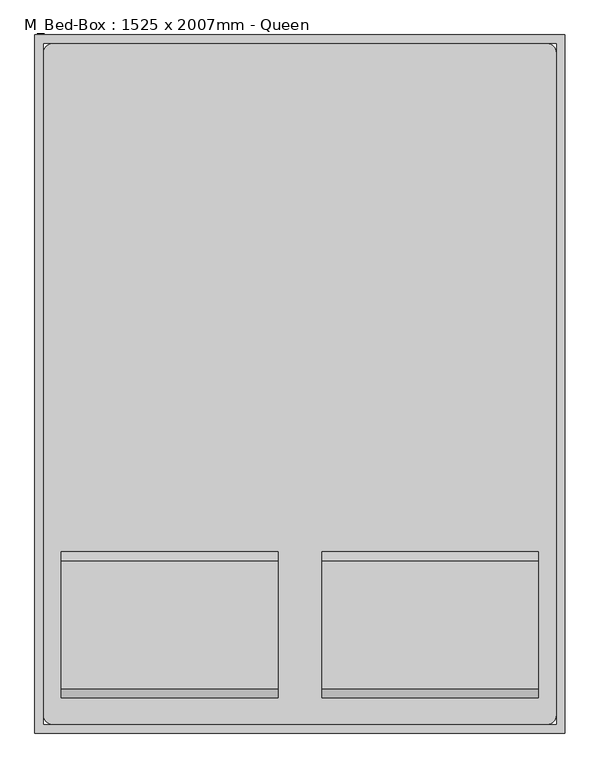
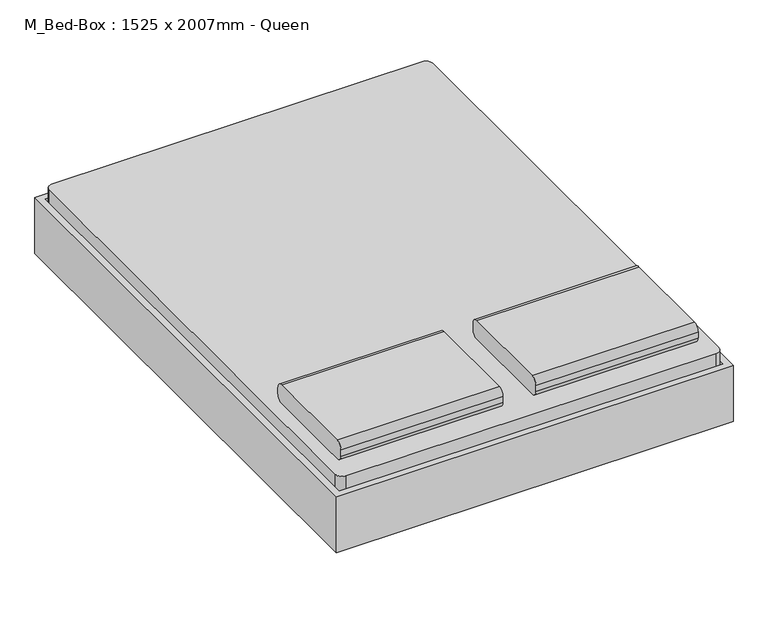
"""IFC4 building model written with IfcOpenShell, lengths in millimetres: furniture geometry, M_Bed-Box : 1525 x 2007mm - Queen."""

from ifc_helpers import new_model, si_unit, point, frame, frame_2d, origin, place, context, project, spatial, polyline, circle_curve, trimmed, segment, composite_curve, outline, extrude, source, transform, mapped, element, save
from ifc_brep_helpers import plane_surface, cylinder_surface, revolved_surface, advanced_brep


def m_bed_box_1525_x_2007mm_queen_a177550f(model_context):
    return source(origin(), model_context, "Body", "SolidModel", [
        extrude(outline(composite_curve([segment(trimmed(circle_curve(frame_2d((-642.0704918, 431.8)), 25.4), [point((-642.0704918, 406.4))], [point((-667.4704918, 431.8))], False, "CARTESIAN"), True, "CONTINUOUS"), segment(polyline([(-667.4704918, 431.8), (-667.4704918, 457.2)]), True, "CONTINUOUS"), segment(trimmed(circle_curve(frame_2d((-642.0704918, 457.2)), 25.4), [point((-667.4704918, 457.2))], [point((-642.0704918, 482.6))], False, "CARTESIAN"), True, "CONTINUOUS"), segment(polyline([(-642.0704918, 482.6), (-273.7704918, 482.6)]), True, "CONTINUOUS"), segment(trimmed(circle_curve(frame_2d((-273.7704918, 457.2)), 25.4), [point((-273.7704918, 482.6))], [point((-248.3704918, 457.2))], False, "CARTESIAN"), True, "CONTINUOUS"), segment(polyline([(-248.3704918, 457.2), (-248.3704918, 431.8)]), True, "CONTINUOUS"), segment(trimmed(circle_curve(frame_2d((-273.7704918, 431.8)), 25.4), [point((-248.3704918, 431.8))], [point((-273.7704918, 406.4))], False, "CARTESIAN"), True, "CONTINUOUS"), segment(polyline([(-273.7704918, 406.4), (-642.0704918, 406.4)]), True, "CONTINUOUS")], self_intersect=False)), frame((402.652459, 0.0, 0.0), z_axis=(1.0, 0.0, 0.0), x_axis=(0.0, 1.0, 0.0)), (0.0, 0.0, 1.0), 622.8),
        extrude(outline(composite_curve([segment(trimmed(circle_curve(frame_2d((-642.0704918, 431.8)), 25.4), [point((-642.0704918, 406.4))], [point((-667.4704918, 431.8))], False, "CARTESIAN"), True, "CONTINUOUS"), segment(polyline([(-667.4704918, 431.8), (-667.4704918, 457.2)]), True, "CONTINUOUS"), segment(trimmed(circle_curve(frame_2d((-642.0704918, 457.2)), 25.4), [point((-667.4704918, 457.2))], [point((-642.0704918, 482.6))], False, "CARTESIAN"), True, "CONTINUOUS"), segment(polyline([(-642.0704918, 482.6), (-273.7704918, 482.6)]), True, "CONTINUOUS"), segment(trimmed(circle_curve(frame_2d((-273.7704918, 457.2)), 25.4), [point((-273.7704918, 482.6))], [point((-248.3704918, 457.2))], False, "CARTESIAN"), True, "CONTINUOUS"), segment(polyline([(-248.3704918, 457.2), (-248.3704918, 431.8)]), True, "CONTINUOUS"), segment(trimmed(circle_curve(frame_2d((-273.7704918, 431.8)), 25.4), [point((-248.3704918, 431.8))], [point((-273.7704918, 406.4))], False, "CARTESIAN"), True, "CONTINUOUS"), segment(polyline([(-273.7704918, 406.4), (-642.0704918, 406.4)]), True, "CONTINUOUS")], self_intersect=False)), frame((-347.147541, 0.0, 0.0), z_axis=(1.0, 0.0, 0.0), x_axis=(0.0, 1.0, 0.0)), (0.0, 0.0, 1.0), 622.8),
        advanced_brep(
        [(-397.6231784, -515.0704918, 177.8), (-397.6231784, -515.0704918, 196.85), (-397.6231784, -438.8704918, 196.85), (-397.6231784, -438.8704918, 177.8), (-346.8231784, -438.8704918, 177.8), (-346.8231784, -515.0704918, 177.8), (-334.6869899, -438.8704918, 196.85), (-334.6869899, -515.0704918, 196.85), (-270.7523099, -438.8704918, 14.6654962), (-270.7523099, -515.0704918, 14.6654962), (-253.4871466, -438.8704918, 22.716374), (-253.4871466, -515.0704918, 22.716374), (-247.7320921, -438.8704918, 0.0), (-247.7320921, -515.0704918, 0.0), (-247.7320921, -438.8704918, 19.05), (-247.7320921, -515.0704918, 19.05), (-169.1195862, -438.8704918, 0.0), (-169.1195862, -515.0704918, 0.0), (-169.1195862, -438.8704918, 19.05), (-169.1195862, -515.0704918, 19.05), (-156.4195862, -438.8704918, 3.4029547), (-156.4195862, -515.0704918, 3.4029547), (-165.9445862, -438.8704918, 19.9007387), (-165.9445862, -515.0704918, 19.9007387), (-96.322541, -438.8704918, 38.1), (-96.322541, -515.0704918, 38.1), (-101.4269731, -438.8704918, 57.15), (-101.4269731, -515.0704918, 57.15), (774.9518216, -438.8704918, 38.1), (774.9518216, -515.0704918, 38.1), (780.0562537, -438.8704918, 57.15), (780.0562537, -515.0704918, 57.15), (835.0488669, -438.8704918, 3.4029547), (835.0488669, -515.0704918, 3.4029547), (844.5738669, -438.8704918, 19.9007387), (844.5738669, -515.0704918, 19.9007387), (847.7488669, -438.8704918, 0.0), (847.7488669, -515.0704918, 0.0), (847.7488669, -438.8704918, 19.05), (847.7488669, -515.0704918, 19.05), (926.3613728, -438.8704918, 0.0), (926.3613728, -515.0704918, 0.0), (926.3613728, -438.8704918, 19.05), (926.3613728, -515.0704918, 19.05), (949.3815906, -438.8704918, 14.6654962), (949.3815906, -515.0704918, 14.6654962), (932.1164272, -438.8704918, 22.716374), (932.1164272, -515.0704918, 22.716374), (1025.452459, -438.8704918, 177.8), (1025.452459, -515.0704918, 177.8), (1013.3162705, -438.8704918, 196.85), (1013.3162705, -515.0704918, 196.85), (1076.252459, -515.0704918, 177.8), (1076.252459, -438.8704918, 177.8), (1076.252459, -438.8704918, 196.85), (1076.252459, -515.0704918, 196.85)],
        [
            (0, 1),
            (1, 2),
            (2, 3),
            (3, 0),
            (3, 4),
            (4, 5),
            (5, 0),
            (2, 6),
            (6, 4),
            (1, 7),
            (7, 6),
            (5, 7),
            (4, 8),
            (8, 9),
            (9, 5),
            (6, 10),
            (10, 8),
            (7, 11),
            (11, 10),
            (9, 11),
            (12, 13),
            (13, 9, circle_curve(frame((-247.7320921, -515.0704918, 25.4), z_axis=(0.0, 1.0, 0.0), x_axis=(-0.9063077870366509, 0.0, -0.4226182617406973)), 25.4)),
            (8, 12, circle_curve(frame((-247.7320921, -438.8704918, 25.4), z_axis=(0.0, -1.0, 0.0), x_axis=(-0.9063077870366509, 0.0, -0.4226182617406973)), 25.4)),
            (14, 12),
            (10, 14, circle_curve(frame((-247.7320921, -438.8704918, 25.4), z_axis=(0.0, -1.0, 0.0), x_axis=(-0.9063077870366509, 0.0, -0.4226182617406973)), 6.35)),
            (15, 14),
            (11, 15, circle_curve(frame((-247.7320921, -515.0704918, 25.4), z_axis=(0.0, -1.0, 0.0), x_axis=(-0.9063077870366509, 0.0, -0.4226182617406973)), 6.35)),
            (13, 15),
            (12, 16),
            (16, 17),
            (17, 13),
            (14, 18),
            (18, 16),
            (15, 19),
            (19, 18),
            (17, 19),
            (20, 21),
            (21, 17, circle_curve(frame((-169.1195862, -515.0704918, 25.4), z_axis=(0.0, 1.0, 0.0), x_axis=(0.0, 0.0, -1.0)), 25.4)),
            (16, 20, circle_curve(frame((-169.1195862, -438.8704918, 25.4), z_axis=(0.0, -1.0, 0.0), x_axis=(0.0, 0.0, -1.0)), 25.4)),
            (22, 20),
            (18, 22, circle_curve(frame((-169.1195862, -438.8704918, 25.4), z_axis=(0.0, -1.0, 0.0), x_axis=(0.0, 0.0, -1.0)), 6.35)),
            (23, 22),
            (19, 23, circle_curve(frame((-169.1195862, -515.0704918, 25.4), z_axis=(0.0, -1.0, 0.0), x_axis=(0.0, 0.0, -1.0)), 6.35)),
            (21, 23),
            (20, 24),
            (24, 25),
            (25, 21),
            (22, 26),
            (26, 24),
            (23, 27),
            (27, 26),
            (25, 27),
            (24, 28),
            (28, 29),
            (29, 25),
            (26, 30),
            (30, 28),
            (27, 31),
            (31, 30),
            (29, 31),
            (28, 32),
            (32, 33),
            (33, 29),
            (30, 34),
            (34, 32),
            (31, 35),
            (35, 34),
            (33, 35),
            (36, 37),
            (37, 33, circle_curve(frame((847.7488669, -515.0704918, 25.4), z_axis=(0.0, 1.0, 0.0), x_axis=(-0.500000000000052, 0.0, -0.8660254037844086)), 25.4)),
            (32, 36, circle_curve(frame((847.7488669, -438.8704918, 25.4), z_axis=(0.0, -1.0, 0.0), x_axis=(-0.500000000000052, 0.0, -0.8660254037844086)), 25.4)),
            (38, 36),
            (34, 38, circle_curve(frame((847.7488669, -438.8704918, 25.4), z_axis=(0.0, -1.0, 0.0), x_axis=(-0.500000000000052, 0.0, -0.8660254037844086)), 6.35)),
            (39, 38),
            (35, 39, circle_curve(frame((847.7488669, -515.0704918, 25.4), z_axis=(0.0, -1.0, 0.0), x_axis=(-0.500000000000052, 0.0, -0.8660254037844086)), 6.35)),
            (37, 39),
            (36, 40),
            (40, 41),
            (41, 37),
            (38, 42),
            (42, 40),
            (39, 43),
            (43, 42),
            (41, 43),
            (44, 45),
            (45, 41, circle_curve(frame((926.3613728, -515.0704918, 25.4), z_axis=(0.0, 1.0, 0.0), x_axis=(0.0, 0.0, -1.0)), 25.4)),
            (40, 44, circle_curve(frame((926.3613728, -438.8704918, 25.4), z_axis=(0.0, -1.0, 0.0), x_axis=(0.0, 0.0, -1.0)), 25.4)),
            (46, 44),
            (42, 46, circle_curve(frame((926.3613728, -438.8704918, 25.4), z_axis=(0.0, -1.0, 0.0), x_axis=(0.0, 0.0, -1.0)), 6.35)),
            (47, 46),
            (43, 47, circle_curve(frame((926.3613728, -515.0704918, 25.4), z_axis=(0.0, -1.0, 0.0), x_axis=(0.0, 0.0, -1.0)), 6.35)),
            (45, 47),
            (44, 48),
            (48, 49),
            (49, 45),
            (46, 50),
            (50, 48),
            (47, 51),
            (51, 50),
            (49, 51),
            (52, 53),
            (53, 54),
            (54, 55),
            (55, 52),
            (48, 53),
            (52, 49),
            (50, 54),
            (51, 55),
        ],
        [
            plane_surface(frame((-397.6231784, -769.0704918, -152.9490627), z_axis=(-1.0, 0.0, 0.0), x_axis=(0.0, -1.0, 0.0))),
            plane_surface(frame((-397.6231784, -515.0704918, 177.8), z_axis=(0.0, 0.0, -1.0), x_axis=(1.0, 0.0, 0.0))),
            plane_surface(frame((-397.6231784, -438.8704918, 177.8), z_axis=(0.0, 1.0, 0.0), x_axis=(1.0, 0.0, 0.0))),
            plane_surface(frame((-397.6231784, -438.8704918, 196.85), z_axis=(0.0, 0.0, 1.0), x_axis=(1.0, 0.0, 0.0))),
            plane_surface(frame((-397.6231784, -515.0704918, 196.85), z_axis=(0.0, -1.0, 0.0), x_axis=(1.0, 0.0, 0.0))),
            plane_surface(frame((-346.8231784, -515.0704918, 177.8), z_axis=(-0.9063077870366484, 0.0, -0.4226182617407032), x_axis=(0.4226182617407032, 0.0, -0.9063077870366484))),
            plane_surface(frame((-346.8231784, -438.8704918, 177.8), z_axis=(0.0, 1.0, 0.0), x_axis=(0.4226182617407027, 0.0, -0.9063077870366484))),
            plane_surface(frame((-334.6869899, -438.8704918, 196.85), z_axis=(0.9063077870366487, 0.0, 0.4226182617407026), x_axis=(0.4226182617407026, 0.0, -0.9063077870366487))),
            plane_surface(frame((-334.6869899, -515.0704918, 196.85), z_axis=(0.0, -1.0000000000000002, 0.0), x_axis=(0.4226182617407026, 0.0, -0.9063077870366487))),
            cylinder_surface(frame((-247.7320921, -769.0704918, 25.4), z_axis=(0.0, 1.0, 0.0), x_axis=(-0.9063077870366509, 0.0, -0.4226182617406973)), 25.4),
            plane_surface(frame((-247.7320921, -438.8704918, 25.4), z_axis=(0.0, 0.9999999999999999, 0.0), x_axis=(-0.9063077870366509, 0.0, -0.4226182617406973))),
            revolved_surface(polyline([(-253.48714654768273, -438.8704918, 22.716374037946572), (-253.48714654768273, -515.0704918, 22.716374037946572)]), (-247.7320921, -769.0704918, 25.4), (0.0, 1.0, 0.0)),
            plane_surface(frame((-247.7320921, -515.0704918, 25.4), z_axis=(0.0, -0.9999999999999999, 0.0), x_axis=(-0.9063077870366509, 0.0, -0.4226182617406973))),
            plane_surface(frame((-247.7320921, -515.0704918, 0.0), z_axis=(0.0, 0.0, -1.0), x_axis=(1.0, 0.0, 0.0))),
            plane_surface(frame((-247.7320921, -438.8704918, 0.0), z_axis=(0.0, 1.0, 0.0), x_axis=(1.0, 0.0, 0.0))),
            plane_surface(frame((-247.7320921, -438.8704918, 19.05), z_axis=(0.0, 0.0, 1.0), x_axis=(1.0, 0.0, 0.0))),
            plane_surface(frame((-247.7320921, -515.0704918, 19.05), z_axis=(0.0, -1.0, 0.0), x_axis=(1.0, 0.0, 0.0))),
            cylinder_surface(frame((-169.1195862, -769.0704918, 25.4), z_axis=(0.0, 1.0, 0.0), x_axis=(0.0, 0.0, -1.0)), 25.4),
            plane_surface(frame((-169.1195862, -438.8704918, 25.4), z_axis=(0.0, 1.0, 0.0), x_axis=(0.0, 0.0, -1.0))),
            revolved_surface(polyline([(-169.1195862, -438.8704918, 19.049999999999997), (-169.1195862, -515.0704918, 19.049999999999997)]), (-169.1195862, -769.0704918, 25.4), (0.0, 1.0, 0.0)),
            plane_surface(frame((-169.1195862, -515.0704918, 25.4), z_axis=(0.0, -1.0, 0.0), x_axis=(0.0, 0.0, -1.0))),
            plane_surface(frame((-156.4195862, -515.0704918, 3.4029547), z_axis=(0.4999999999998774, 0.0, -0.8660254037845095), x_axis=(0.8660254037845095, 0.0, 0.4999999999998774))),
            plane_surface(frame((-156.4195862, -438.8704918, 3.4029547), z_axis=(0.0, 1.0, 0.0), x_axis=(0.8660254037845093, 0.0, 0.4999999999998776))),
            plane_surface(frame((-165.9445862, -438.8704918, 19.9007387), z_axis=(-0.4999999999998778, 0.0, 0.8660254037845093), x_axis=(0.8660254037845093, 0.0, 0.4999999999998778))),
            plane_surface(frame((-165.9445862, -515.0704918, 19.9007387), z_axis=(0.0, -1.0000000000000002, 0.0), x_axis=(0.8660254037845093, 0.0, 0.4999999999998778))),
            plane_surface(frame((-96.322541, -515.0704918, 38.1), z_axis=(0.0, 0.0, -1.0), x_axis=(1.0, 0.0, 0.0))),
            plane_surface(frame((-96.322541, -438.8704918, 38.1), z_axis=(0.0, 1.0, 0.0), x_axis=(1.0, 0.0, 0.0))),
            plane_surface(frame((-101.4269731, -438.8704918, 57.15), z_axis=(0.0, 0.0, 1.0), x_axis=(1.0, 0.0, 0.0))),
            plane_surface(frame((-101.4269731, -515.0704918, 57.15), z_axis=(0.0, -1.0, 0.0), x_axis=(1.0, 0.0, 0.0))),
            plane_surface(frame((774.9518216, -515.0704918, 38.1), z_axis=(-0.5000000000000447, 0.0, -0.8660254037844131), x_axis=(0.8660254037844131, 0.0, -0.5000000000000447))),
            plane_surface(frame((774.9518216, -438.8704918, 38.1), z_axis=(0.0, 1.0, 0.0), x_axis=(0.8660254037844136, 0.0, -0.5000000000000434))),
            plane_surface(frame((780.0562537, -438.8704918, 57.15), z_axis=(0.5000000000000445, 0.0, 0.8660254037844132), x_axis=(0.8660254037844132, 0.0, -0.5000000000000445))),
            plane_surface(frame((780.0562537, -515.0704918, 57.15), z_axis=(0.0, -1.0, 0.0), x_axis=(0.8660254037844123, 0.0, -0.5000000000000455))),
            cylinder_surface(frame((847.7488669, -769.0704918, 25.4), z_axis=(0.0, 1.0, 0.0), x_axis=(-0.500000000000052, 0.0, -0.8660254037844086)), 25.4),
            plane_surface(frame((847.7488669, -438.8704918, 25.4), z_axis=(0.0, 1.0, 0.0), x_axis=(-0.500000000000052, 0.0, -0.8660254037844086))),
            revolved_surface(polyline([(844.5738668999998, -438.8704918, 19.900738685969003), (844.5738668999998, -515.0704918, 19.900738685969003)]), (847.7488669, -769.0704918, 25.4), (0.0, 1.0, 0.0)),
            plane_surface(frame((847.7488669, -515.0704918, 25.4), z_axis=(0.0, -1.0, 0.0), x_axis=(-0.500000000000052, 0.0, -0.8660254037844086))),
            plane_surface(frame((847.7488669, -515.0704918, 0.0), z_axis=(0.0, 0.0, -1.0), x_axis=(1.0, 0.0, 0.0))),
            plane_surface(frame((847.7488669, -438.8704918, 0.0), z_axis=(0.0, 1.0, 0.0), x_axis=(1.0, 0.0, 0.0))),
            plane_surface(frame((847.7488669, -438.8704918, 19.05), z_axis=(0.0, 0.0, 1.0), x_axis=(1.0, 0.0, 0.0))),
            plane_surface(frame((847.7488669, -515.0704918, 19.05), z_axis=(0.0, -1.0, 0.0), x_axis=(1.0, 0.0, 0.0))),
            cylinder_surface(frame((926.3613728, -769.0704918, 25.4), z_axis=(0.0, 1.0, 0.0), x_axis=(0.0, 0.0, -1.0)), 25.4),
            plane_surface(frame((926.3613728, -438.8704918, 25.4), z_axis=(0.0, 1.0, 0.0), x_axis=(0.0, 0.0, -1.0))),
            revolved_surface(polyline([(926.3613728, -438.8704918, 19.049999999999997), (926.3613728, -515.0704918, 19.049999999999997)]), (926.3613728, -769.0704918, 25.4), (0.0, 1.0, 0.0)),
            plane_surface(frame((926.3613728, -515.0704918, 25.4), z_axis=(0.0, -1.0, 0.0), x_axis=(0.0, 0.0, -1.0))),
            plane_surface(frame((949.3815906, -515.0704918, 14.6654962), z_axis=(0.9063077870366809, 0.0, -0.4226182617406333), x_axis=(0.4226182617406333, 0.0, 0.9063077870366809))),
            plane_surface(frame((949.3815906, -438.8704918, 14.6654962), z_axis=(0.0, 1.0000000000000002, 0.0), x_axis=(0.42261826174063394, 0.0, 0.9063077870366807))),
            plane_surface(frame((932.1164272, -438.8704918, 22.716374), z_axis=(-0.9063077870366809, 0.0, 0.42261826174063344), x_axis=(0.42261826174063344, 0.0, 0.9063077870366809))),
            plane_surface(frame((932.1164272, -515.0704918, 22.716374), z_axis=(0.0, -1.0, 0.0), x_axis=(0.4226182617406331, 0.0, 0.9063077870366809))),
            plane_surface(frame((1076.252459, -769.0704918, -152.9490627), z_axis=(1.0, 0.0, 0.0), x_axis=(0.0, -1.0, 0.0))),
            plane_surface(frame((1025.452459, -515.0704918, 177.8), z_axis=(0.0, 0.0, -1.0), x_axis=(1.0, 0.0, 0.0))),
            plane_surface(frame((1025.452459, -438.8704918, 177.8), z_axis=(0.0, 1.0, 0.0), x_axis=(1.0, 0.0, 0.0))),
            plane_surface(frame((1013.3162705, -438.8704918, 196.85), z_axis=(0.0, 0.0, 1.0), x_axis=(1.0, 0.0, 0.0))),
            plane_surface(frame((1013.3162705, -515.0704918, 196.85), z_axis=(0.0, -1.0, 0.0), x_axis=(1.0, 0.0, 0.0))),
        ],
        [
            (0, [[1, 2, 3, 4]]),
            (1, [[5, 6, 7, -4]]),
            (2, [[8, 9, -5, -3]]),
            (3, [[10, 11, -8, -2]]),
            (4, [[-7, 12, -10, -1]]),
            (5, [[13, 14, 15, -6]]),
            (6, [[16, 17, -13, -9]]),
            (7, [[18, 19, -16, -11]]),
            (8, [[-15, 20, -18, -12]]),
            (9, [[21, 22, -14, 23]]),
            (10, [[24, -23, -17, 25]]),
            (11, [[26, -25, -19, 27]]),
            (12, [[28, -27, -20, -22]]),
            (13, [[29, 30, 31, -21]]),
            (14, [[32, 33, -29, -24]]),
            (15, [[34, 35, -32, -26]]),
            (16, [[-31, 36, -34, -28]]),
            (17, [[37, 38, -30, 39]]),
            (18, [[40, -39, -33, 41]]),
            (19, [[42, -41, -35, 43]]),
            (20, [[44, -43, -36, -38]]),
            (21, [[45, 46, 47, -37]]),
            (22, [[48, 49, -45, -40]]),
            (23, [[50, 51, -48, -42]]),
            (24, [[-47, 52, -50, -44]]),
            (25, [[53, 54, 55, -46]]),
            (26, [[56, 57, -53, -49]]),
            (27, [[58, 59, -56, -51]]),
            (28, [[-55, 60, -58, -52]]),
            (29, [[61, 62, 63, -54]]),
            (30, [[64, 65, -61, -57]]),
            (31, [[66, 67, -64, -59]]),
            (32, [[-63, 68, -66, -60]]),
            (33, [[69, 70, -62, 71]]),
            (34, [[72, -71, -65, 73]]),
            (35, [[74, -73, -67, 75]]),
            (36, [[76, -75, -68, -70]]),
            (37, [[77, 78, 79, -69]]),
            (38, [[80, 81, -77, -72]]),
            (39, [[82, 83, -80, -74]]),
            (40, [[-79, 84, -82, -76]]),
            (41, [[85, 86, -78, 87]]),
            (42, [[88, -87, -81, 89]]),
            (43, [[90, -89, -83, 91]]),
            (44, [[92, -91, -84, -86]]),
            (45, [[93, 94, 95, -85]]),
            (46, [[96, 97, -93, -88]]),
            (47, [[98, 99, -96, -90]]),
            (48, [[-95, 100, -98, -92]]),
            (49, [[101, 102, 103, 104]]),
            (50, [[105, -101, 106, -94]]),
            (51, [[107, -102, -105, -97]]),
            (52, [[108, -103, -107, -99]]),
            (53, [[-106, -104, -108, -100]]),
        ],
    ),
        extrude(outline(composite_curve([segment(trimmed(circle_curve(frame_2d((-372.547541, -718.2704918)), 25.4), [point((-372.547541, -743.6704918))], [point((-397.947541, -718.2704918))], False, "CARTESIAN"), True, "CONTINUOUS"), segment(polyline([(-397.947541, -718.2704918), (-397.947541, 1187.1295082)]), True, "CONTINUOUS"), segment(trimmed(circle_curve(frame_2d((-372.547541, 1187.1295082)), 25.4), [point((-397.947541, 1187.1295082))], [point((-372.547541, 1212.5295082))], False, "CARTESIAN"), True, "CONTINUOUS"), segment(polyline([(-372.547541, 1212.5295082), (1050.852459, 1212.5295082)]), True, "CONTINUOUS"), segment(trimmed(circle_curve(frame_2d((1050.852459, 1187.1295082)), 25.4), [point((1050.852459, 1212.5295082))], [point((1076.252459, 1187.1295082))], False, "CARTESIAN"), True, "CONTINUOUS"), segment(polyline([(1076.252459, 1187.1295082), (1076.252459, -718.2704918)]), True, "CONTINUOUS"), segment(trimmed(circle_curve(frame_2d((1050.852459, -718.2704918)), 25.4), [point((1076.252459, -718.2704918))], [point((1050.852459, -743.6704918))], False, "CARTESIAN"), True, "CONTINUOUS"), segment(polyline([(1050.852459, -743.6704918), (-372.547541, -743.6704918)]), True, "CONTINUOUS")], self_intersect=False)), frame((0.0, 0.0, 203.2), z_axis=(0.0, 0.0, 1.0), x_axis=(1.0, 0.0, 0.0)), (0.0, 0.0, 1.0), 203.2),
        advanced_brep(
        [(-397.947541, 933.1295082, 196.85), (-397.947541, 1009.3295082, 196.85), (-397.947541, 1009.3295082, 177.8), (-397.947541, 933.1295082, 177.8), (-347.147541, 933.1295082, 177.8), (-335.0113525, 933.1295082, 196.85), (-347.147541, 1009.3295082, 177.8), (-335.0113525, 1009.3295082, 196.85), (-271.0766725, 933.1295082, 14.6654962), (-253.8115092, 933.1295082, 22.716374), (-271.0766725, 1009.3295082, 14.6654962), (-253.8115092, 1009.3295082, 22.716374), (-248.0564547, 933.1295082, 0.0), (-248.0564547, 933.1295082, 19.05), (-248.0564547, 1009.3295082, 0.0), (-248.0564547, 1009.3295082, 19.05), (-169.4439489, 933.1295082, 0.0), (-169.4439489, 933.1295082, 19.05), (-169.4439489, 1009.3295082, 0.0), (-169.4439489, 1009.3295082, 19.05), (-156.7439489, 933.1295082, 3.4029547), (-166.2689489, 933.1295082, 19.9007387), (-156.7439489, 1009.3295082, 3.4029547), (-166.2689489, 1009.3295082, 19.9007387), (-96.6469036, 933.1295082, 38.1), (-101.7513357, 933.1295082, 57.15), (-96.6469036, 1009.3295082, 38.1), (-101.7513357, 1009.3295082, 57.15), (774.9518216, 933.1295082, 38.1), (780.0562537, 933.1295082, 57.15), (774.9518216, 1009.3295082, 38.1), (780.0562537, 1009.3295082, 57.15), (835.0488669, 933.1295082, 3.4029547), (844.5738669, 933.1295082, 19.9007387), (835.0488669, 1009.3295082, 3.4029547), (844.5738669, 1009.3295082, 19.9007387), (847.7488669, 933.1295082, 0.0), (847.7488669, 933.1295082, 19.05), (847.7488669, 1009.3295082, 0.0), (847.7488669, 1009.3295082, 19.05), (926.3613728, 933.1295082, 0.0), (926.3613728, 933.1295082, 19.05), (926.3613728, 1009.3295082, 0.0), (926.3613728, 1009.3295082, 19.05), (949.3815906, 933.1295082, 14.6654962), (932.1164272, 933.1295082, 22.716374), (949.3815906, 1009.3295082, 14.6654962), (932.1164272, 1009.3295082, 22.716374), (1025.452459, 933.1295082, 177.8), (1013.3162705, 933.1295082, 196.85), (1025.452459, 1009.3295082, 177.8), (1013.3162705, 1009.3295082, 196.85), (1076.252459, 933.1295082, 196.85), (1076.252459, 933.1295082, 177.8), (1076.252459, 1009.3295082, 177.8), (1076.252459, 1009.3295082, 196.85)],
        [
            (0, 1),
            (1, 2),
            (2, 3),
            (3, 0),
            (3, 4),
            (4, 5),
            (5, 0),
            (2, 6),
            (6, 4),
            (1, 7),
            (7, 6),
            (5, 7),
            (4, 8),
            (8, 9),
            (9, 5),
            (6, 10),
            (10, 8),
            (7, 11),
            (11, 10),
            (9, 11),
            (12, 13),
            (13, 9, circle_curve(frame((-248.0564547, 933.1295082, 25.4), z_axis=(0.0, 1.0, 0.0), x_axis=(-0.9063077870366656, 0.0, -0.42261826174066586)), 6.35)),
            (8, 12, circle_curve(frame((-248.0564547, 933.1295082, 25.4), z_axis=(0.0, -1.0, 0.0), x_axis=(-0.9063077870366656, 0.0, -0.42261826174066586)), 25.4)),
            (14, 12),
            (10, 14, circle_curve(frame((-248.0564547, 1009.3295082, 25.4), z_axis=(0.0, -1.0, 0.0), x_axis=(-0.9063077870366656, 0.0, -0.42261826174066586)), 25.4)),
            (15, 14),
            (11, 15, circle_curve(frame((-248.0564547, 1009.3295082, 25.4), z_axis=(0.0, -1.0, 0.0), x_axis=(-0.9063077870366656, 0.0, -0.42261826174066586)), 6.35)),
            (13, 15),
            (12, 16),
            (16, 17),
            (17, 13),
            (14, 18),
            (18, 16),
            (15, 19),
            (19, 18),
            (17, 19),
            (20, 21),
            (21, 17, circle_curve(frame((-169.4439489, 933.1295082, 25.4), z_axis=(0.0, 1.0, 0.0), x_axis=(0.0, 0.0, -1.0)), 6.35)),
            (16, 20, circle_curve(frame((-169.4439489, 933.1295082, 25.4), z_axis=(0.0, -1.0, 0.0), x_axis=(0.0, 0.0, -1.0)), 25.4)),
            (22, 20),
            (18, 22, circle_curve(frame((-169.4439489, 1009.3295082, 25.4), z_axis=(0.0, -1.0, 0.0), x_axis=(0.0, 0.0, -1.0)), 25.4)),
            (23, 22),
            (19, 23, circle_curve(frame((-169.4439489, 1009.3295082, 25.4), z_axis=(0.0, -1.0, 0.0), x_axis=(0.0, 0.0, -1.0)), 6.35)),
            (21, 23),
            (20, 24),
            (24, 25),
            (25, 21),
            (22, 26),
            (26, 24),
            (23, 27),
            (27, 26),
            (25, 27),
            (24, 28),
            (28, 29),
            (29, 25),
            (26, 30),
            (30, 28),
            (27, 31),
            (31, 30),
            (29, 31),
            (28, 32),
            (32, 33),
            (33, 29),
            (30, 34),
            (34, 32),
            (31, 35),
            (35, 34),
            (33, 35),
            (36, 37),
            (37, 33, circle_curve(frame((847.7488669, 933.1295082, 25.4), z_axis=(0.0, 1.0, 0.0), x_axis=(-0.5000000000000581, 0.0, -0.8660254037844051)), 6.35)),
            (32, 36, circle_curve(frame((847.7488669, 933.1295082, 25.4), z_axis=(0.0, -1.0, 0.0), x_axis=(-0.5000000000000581, 0.0, -0.8660254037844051)), 25.4)),
            (38, 36),
            (34, 38, circle_curve(frame((847.7488669, 1009.3295082, 25.4), z_axis=(0.0, -1.0, 0.0), x_axis=(-0.5000000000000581, 0.0, -0.8660254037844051)), 25.4)),
            (39, 38),
            (35, 39, circle_curve(frame((847.7488669, 1009.3295082, 25.4), z_axis=(0.0, -1.0, 0.0), x_axis=(-0.5000000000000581, 0.0, -0.8660254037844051)), 6.35)),
            (37, 39),
            (36, 40),
            (40, 41),
            (41, 37),
            (38, 42),
            (42, 40),
            (39, 43),
            (43, 42),
            (41, 43),
            (44, 45),
            (45, 41, circle_curve(frame((926.3613728, 933.1295082, 25.4), z_axis=(0.0, 1.0, 0.0), x_axis=(0.0, 0.0, -1.0)), 6.35)),
            (40, 44, circle_curve(frame((926.3613728, 933.1295082, 25.4), z_axis=(0.0, -1.0, 0.0), x_axis=(0.0, 0.0, -1.0)), 25.4)),
            (46, 44),
            (42, 46, circle_curve(frame((926.3613728, 1009.3295082, 25.4), z_axis=(0.0, -1.0, 0.0), x_axis=(0.0, 0.0, -1.0)), 25.4)),
            (47, 46),
            (43, 47, circle_curve(frame((926.3613728, 1009.3295082, 25.4), z_axis=(0.0, -1.0, 0.0), x_axis=(0.0, 0.0, -1.0)), 6.35)),
            (45, 47),
            (44, 48),
            (48, 49),
            (49, 45),
            (46, 50),
            (50, 48),
            (47, 51),
            (51, 50),
            (49, 51),
            (52, 53),
            (53, 54),
            (54, 55),
            (55, 52),
            (48, 53),
            (52, 49),
            (50, 54),
            (51, 55),
        ],
        [
            plane_surface(frame((-397.947541, 1237.9295082, -127.5947323), z_axis=(-1.0, 0.0, 0.0), x_axis=(0.0, -1.0, 0.0))),
            plane_surface(frame((-397.947541, 933.1295082, 196.85), z_axis=(0.0, -1.0, 0.0), x_axis=(1.0, 0.0, 0.0))),
            plane_surface(frame((-397.947541, 933.1295082, 177.8), z_axis=(0.0, 0.0, -1.0), x_axis=(1.0, 0.0, 0.0))),
            plane_surface(frame((-397.947541, 1009.3295082, 177.8), z_axis=(0.0, 1.0, 0.0), x_axis=(1.0, 0.0, 0.0))),
            plane_surface(frame((-397.947541, 1009.3295082, 196.85), z_axis=(0.0, 0.0, 1.0), x_axis=(1.0, 0.0, 0.0))),
            plane_surface(frame((-335.0113525, 933.1295082, 196.85), z_axis=(0.0, -1.0000000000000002, 0.0), x_axis=(0.4226182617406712, 0.0, -0.9063077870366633))),
            plane_surface(frame((-347.147541, 933.1295082, 177.8), z_axis=(-0.9063077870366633, 0.0, -0.4226182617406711), x_axis=(0.4226182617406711, 0.0, -0.9063077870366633))),
            plane_surface(frame((-347.147541, 1009.3295082, 177.8), z_axis=(0.0, 1.0, 0.0), x_axis=(0.42261826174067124, 0.0, -0.9063077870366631))),
            plane_surface(frame((-335.0113525, 1009.3295082, 196.85), z_axis=(0.9063077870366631, 0.0, 0.4226182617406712), x_axis=(0.4226182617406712, 0.0, -0.9063077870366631))),
            plane_surface(frame((-248.0564547, 933.1295082, 25.4), z_axis=(0.0, -0.9999999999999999, 0.0), x_axis=(-0.9063077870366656, 0.0, -0.42261826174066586))),
            cylinder_surface(frame((-248.0564547, 1237.9295082, 25.4), z_axis=(0.0, 1.0, 0.0), x_axis=(-0.9063077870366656, 0.0, -0.42261826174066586)), 25.4),
            plane_surface(frame((-248.0564547, 1009.3295082, 25.4), z_axis=(0.0, 0.9999999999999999, 0.0), x_axis=(-0.9063077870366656, 0.0, -0.42261826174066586))),
            revolved_surface(polyline([(-253.8115091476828, 1009.3295082, 22.71637403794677), (-253.8115091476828, 933.1295082, 22.71637403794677)]), (-248.0564547, 1237.9295082, 25.4), (0.0, 1.0, 0.0)),
            plane_surface(frame((-248.0564547, 933.1295082, 19.05), z_axis=(0.0, -1.0, 0.0), x_axis=(1.0, 0.0, 0.0))),
            plane_surface(frame((-248.0564547, 933.1295082, 0.0), z_axis=(0.0, 0.0, -1.0), x_axis=(1.0, 0.0, 0.0))),
            plane_surface(frame((-248.0564547, 1009.3295082, 0.0), z_axis=(0.0, 1.0, 0.0), x_axis=(1.0, 0.0, 0.0))),
            plane_surface(frame((-248.0564547, 1009.3295082, 19.05), z_axis=(0.0, 0.0, 1.0), x_axis=(1.0, 0.0, 0.0))),
            plane_surface(frame((-169.4439489, 933.1295082, 25.4), z_axis=(0.0, -1.0, 0.0), x_axis=(0.0, 0.0, -1.0))),
            cylinder_surface(frame((-169.4439489, 1237.9295082, 25.4), z_axis=(0.0, 1.0, 0.0), x_axis=(0.0, 0.0, -1.0)), 25.4),
            plane_surface(frame((-169.4439489, 1009.3295082, 25.4), z_axis=(0.0, 1.0, 0.0), x_axis=(0.0, 0.0, -1.0))),
            revolved_surface(polyline([(-169.4439489, 1009.3295082, 19.049999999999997), (-169.4439489, 933.1295082, 19.049999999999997)]), (-169.4439489, 1237.9295082, 25.4), (0.0, 1.0, 0.0)),
            plane_surface(frame((-166.2689489, 933.1295082, 19.9007387), z_axis=(0.0, -1.0, 0.0), x_axis=(0.8660254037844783, 0.0, 0.4999999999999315))),
            plane_surface(frame((-156.7439489, 933.1295082, 3.4029547), z_axis=(0.4999999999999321, 0.0, -0.8660254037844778), x_axis=(0.8660254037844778, 0.0, 0.4999999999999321))),
            plane_surface(frame((-156.7439489, 1009.3295082, 3.4029547), z_axis=(0.0, 1.0, 0.0), x_axis=(0.8660254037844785, 0.0, 0.49999999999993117))),
            plane_surface(frame((-166.2689489, 1009.3295082, 19.9007387), z_axis=(-0.49999999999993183, 0.0, 0.8660254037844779), x_axis=(0.8660254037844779, 0.0, 0.49999999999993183))),
            plane_surface(frame((-101.7513357, 933.1295082, 57.15), z_axis=(0.0, -1.0, 0.0), x_axis=(1.0, 0.0, 0.0))),
            plane_surface(frame((-96.6469036, 933.1295082, 38.1), z_axis=(0.0, 0.0, -1.0), x_axis=(1.0, 0.0, 0.0))),
            plane_surface(frame((-96.6469036, 1009.3295082, 38.1), z_axis=(0.0, 1.0, 0.0), x_axis=(1.0, 0.0, 0.0))),
            plane_surface(frame((-101.7513357, 1009.3295082, 57.15), z_axis=(0.0, 0.0, 1.0), x_axis=(1.0, 0.0, 0.0))),
            plane_surface(frame((780.0562537, 933.1295082, 57.15), z_axis=(0.0, -1.0000000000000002, 0.0), x_axis=(0.8660254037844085, 0.0, -0.5000000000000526))),
            plane_surface(frame((774.9518216, 933.1295082, 38.1), z_axis=(-0.5000000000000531, 0.0, -0.8660254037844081), x_axis=(0.8660254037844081, 0.0, -0.5000000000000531))),
            plane_surface(frame((774.9518216, 1009.3295082, 38.1), z_axis=(0.0, 1.0000000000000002, 0.0), x_axis=(0.8660254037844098, 0.0, -0.5000000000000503))),
            plane_surface(frame((780.0562537, 1009.3295082, 57.15), z_axis=(0.5000000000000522, 0.0, 0.8660254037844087), x_axis=(0.8660254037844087, 0.0, -0.5000000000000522))),
            plane_surface(frame((847.7488669, 933.1295082, 25.4), z_axis=(0.0, -0.9999999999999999, 0.0), x_axis=(-0.5000000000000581, 0.0, -0.8660254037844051))),
            cylinder_surface(frame((847.7488669, 1237.9295082, 25.4), z_axis=(0.0, 1.0, 0.0), x_axis=(-0.5000000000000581, 0.0, -0.8660254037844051)), 25.4),
            plane_surface(frame((847.7488669, 1009.3295082, 25.4), z_axis=(0.0, 0.9999999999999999, 0.0), x_axis=(-0.5000000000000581, 0.0, -0.8660254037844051))),
            revolved_surface(polyline([(844.5738668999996, 1009.3295082, 19.900738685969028), (844.5738668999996, 933.1295082, 19.900738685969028)]), (847.7488669, 1237.9295082, 25.4), (0.0, 1.0, 0.0)),
            plane_surface(frame((847.7488669, 933.1295082, 19.05), z_axis=(0.0, -1.0, 0.0), x_axis=(1.0, 0.0, 0.0))),
            plane_surface(frame((847.7488669, 933.1295082, 0.0), z_axis=(0.0, 0.0, -1.0), x_axis=(1.0, 0.0, 0.0))),
            plane_surface(frame((847.7488669, 1009.3295082, 0.0), z_axis=(0.0, 1.0, 0.0), x_axis=(1.0, 0.0, 0.0))),
            plane_surface(frame((847.7488669, 1009.3295082, 19.05), z_axis=(0.0, 0.0, 1.0), x_axis=(1.0, 0.0, 0.0))),
            plane_surface(frame((926.3613728, 933.1295082, 25.4), z_axis=(0.0, -1.0, 0.0), x_axis=(0.0, 0.0, -1.0))),
            cylinder_surface(frame((926.3613728, 1237.9295082, 25.4), z_axis=(0.0, 1.0, 0.0), x_axis=(0.0, 0.0, -1.0)), 25.4),
            plane_surface(frame((926.3613728, 1009.3295082, 25.4), z_axis=(0.0, 1.0, 0.0), x_axis=(0.0, 0.0, -1.0))),
            revolved_surface(polyline([(926.3613728, 1009.3295082, 19.049999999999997), (926.3613728, 933.1295082, 19.049999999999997)]), (926.3613728, 1237.9295082, 25.4), (0.0, 1.0, 0.0)),
            plane_surface(frame((932.1164272, 933.1295082, 22.716374), z_axis=(0.0, -1.0000000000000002, 0.0), x_axis=(0.4226182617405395, 0.0, 0.9063077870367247))),
            plane_surface(frame((949.3815906, 933.1295082, 14.6654962), z_axis=(0.9063077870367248, 0.0, -0.4226182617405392), x_axis=(0.4226182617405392, 0.0, 0.9063077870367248))),
            plane_surface(frame((949.3815906, 1009.3295082, 14.6654962), z_axis=(0.0, 1.0, 0.0), x_axis=(0.4226182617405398, 0.0, 0.9063077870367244))),
            plane_surface(frame((932.1164272, 1009.3295082, 22.716374), z_axis=(-0.9063077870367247, 0.0, 0.4226182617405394), x_axis=(0.4226182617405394, 0.0, 0.9063077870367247))),
            plane_surface(frame((1076.252459, 1237.9295082, -127.5947323), z_axis=(1.0, 0.0, 0.0), x_axis=(0.0, -1.0, 0.0))),
            plane_surface(frame((1013.3162705, 933.1295082, 196.85), z_axis=(0.0, -1.0, 0.0), x_axis=(1.0, 0.0, 0.0))),
            plane_surface(frame((1025.452459, 933.1295082, 177.8), z_axis=(0.0, 0.0, -1.0), x_axis=(1.0, 0.0, 0.0))),
            plane_surface(frame((1025.452459, 1009.3295082, 177.8), z_axis=(0.0, 1.0, 0.0), x_axis=(1.0, 0.0, 0.0))),
            plane_surface(frame((1013.3162705, 1009.3295082, 196.85), z_axis=(0.0, 0.0, 1.0), x_axis=(1.0, 0.0, 0.0))),
        ],
        [
            (0, [[1, 2, 3, 4]]),
            (1, [[5, 6, 7, -4]]),
            (2, [[8, 9, -5, -3]]),
            (3, [[10, 11, -8, -2]]),
            (4, [[-7, 12, -10, -1]]),
            (5, [[13, 14, 15, -6]]),
            (6, [[16, 17, -13, -9]]),
            (7, [[18, 19, -16, -11]]),
            (8, [[-15, 20, -18, -12]]),
            (9, [[21, 22, -14, 23]]),
            (10, [[24, -23, -17, 25]]),
            (11, [[26, -25, -19, 27]]),
            (12, [[28, -27, -20, -22]]),
            (13, [[29, 30, 31, -21]]),
            (14, [[32, 33, -29, -24]]),
            (15, [[34, 35, -32, -26]]),
            (16, [[-31, 36, -34, -28]]),
            (17, [[37, 38, -30, 39]]),
            (18, [[40, -39, -33, 41]]),
            (19, [[42, -41, -35, 43]]),
            (20, [[44, -43, -36, -38]]),
            (21, [[45, 46, 47, -37]]),
            (22, [[48, 49, -45, -40]]),
            (23, [[50, 51, -48, -42]]),
            (24, [[-47, 52, -50, -44]]),
            (25, [[53, 54, 55, -46]]),
            (26, [[56, 57, -53, -49]]),
            (27, [[58, 59, -56, -51]]),
            (28, [[-55, 60, -58, -52]]),
            (29, [[61, 62, 63, -54]]),
            (30, [[64, 65, -61, -57]]),
            (31, [[66, 67, -64, -59]]),
            (32, [[-63, 68, -66, -60]]),
            (33, [[69, 70, -62, 71]]),
            (34, [[72, -71, -65, 73]]),
            (35, [[74, -73, -67, 75]]),
            (36, [[76, -75, -68, -70]]),
            (37, [[77, 78, 79, -69]]),
            (38, [[80, 81, -77, -72]]),
            (39, [[82, 83, -80, -74]]),
            (40, [[-79, 84, -82, -76]]),
            (41, [[85, 86, -78, 87]]),
            (42, [[88, -87, -81, 89]]),
            (43, [[90, -89, -83, 91]]),
            (44, [[92, -91, -84, -86]]),
            (45, [[93, 94, 95, -85]]),
            (46, [[96, 97, -93, -88]]),
            (47, [[98, 99, -96, -90]]),
            (48, [[-95, 100, -98, -92]]),
            (49, [[101, 102, 103, 104]]),
            (50, [[105, -101, 106, -94]]),
            (51, [[107, -102, -105, -97]]),
            (52, [[108, -103, -107, -99]]),
            (53, [[-106, -104, -108, -100]]),
        ],
    ),
        extrude(outline(polyline([(1101.652459, -769.0704918), (-423.347541, -769.0704918), (-423.347541, 1237.9295082), (1101.652459, 1237.9295082), (1101.652459, -769.0704918)]), holes=[polyline([(1076.252459, -743.6704918), (1076.252459, 1212.5295082), (-397.947541, 1212.5295082), (-397.947541, -743.6704918), (1076.252459, -743.6704918)])]), frame((0.0, 0.0, 127.0), z_axis=(0.0, 0.0, 1.0), x_axis=(1.0, 0.0, 0.0)), (0.0, 0.0, 1.0), 228.6),
    ])


if __name__ == "__main__":
    model = new_model("IFC4")
    model_context = context("Model", 3, world=origin())
    ifc_project = project(units=[si_unit("LENGTHUNIT", "METRE", prefix="MILLI")], contexts=[model_context])
    site = spatial("IfcSite", under=ifc_project)
    building = spatial("IfcBuilding", under=site)
    placement = place(None, origin())
    m_bed_box_1525_x_2007mm_queen_shape = m_bed_box_1525_x_2007mm_queen_a177550f(model_context)
    element("IfcFurniture", 1, ObjectType="M_Bed-Box : 1525 x 2007mm - Queen", at=placement, inside=building, context=model_context, shape_type="MappedRepresentation", body=[
        mapped(m_bed_box_1525_x_2007mm_queen_shape, transform((0.0, 0.0, 0.0), x_axis=(1.0, 0.0, 0.0), y_axis=(0.0, 1.0, 0.0), z_axis=(0.0, 0.0, 1.0))),
    ])
    save(model, "model.ifc")
